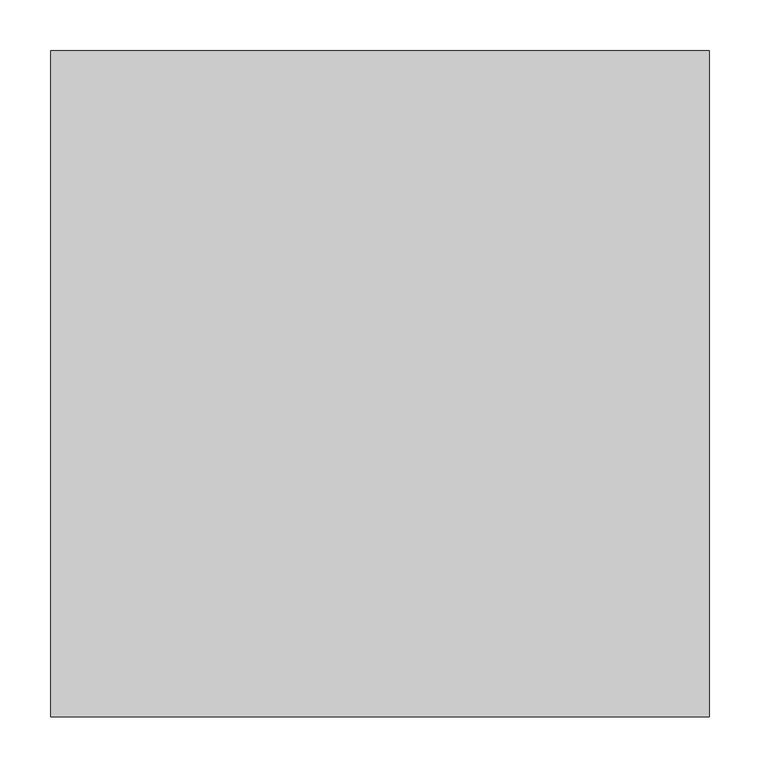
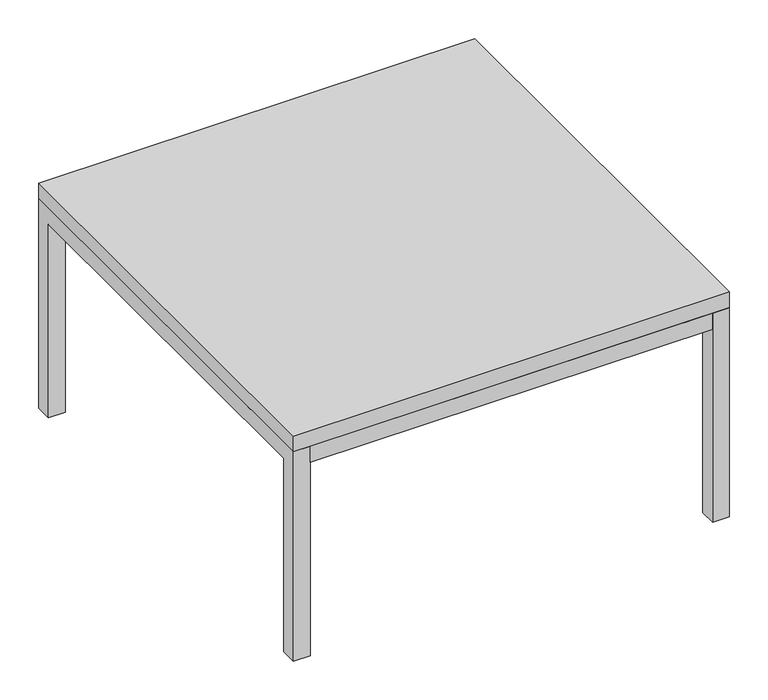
"""IFC4 building model written with IfcOpenShell, lengths in millimetres: furniture geometry, Mesa Modular - COLAB - SM 04 : Mesa Modular - COLAB - SM 04."""

import ifcopenshell
import ifcopenshell.guid

model = None  # the IFC model being written
_history = None  # IfcOwnerHistory: only IFC2X3 demands one
_inside = {}  # id of a spatial element -> (the spatial element, [elements in it])
_under = {}  # id of a project, library or spatial element -> (it, [spatial elements below it])
_declared = {}  # id of a project -> (the project, [libraries it declares])
_typed = {}  # id of a type object -> (the type object, [elements of that type])
_made_of = {}  # id of a material, layer set ... -> (it, [elements and type objects made of it])


def new_model(schema):
    """Start an empty IFC model of exactly this schema.

    Asked for "IFC4X3", IfcOpenShell would pick the latest addendum, in which some entities
    have other attributes; the version numbers below select the first issue.
    IFC2X3 requires an IfcOwnerHistory on every rooted entity: one is made here for all.
    """
    global model, _history
    if schema == "IFC4X3":
        model = ifcopenshell.file(schema_version=(4, 3, 0, 0))
    else:
        model = ifcopenshell.file(schema=schema)
    _inside.clear()
    _under.clear()
    _declared.clear()
    _typed.clear()
    _made_of.clear()
    _history = None
    if model.schema == "IFC2X3":
        org = make("IfcOrganization", Name="unknown")
        user = make(
            "IfcPersonAndOrganization",
            ThePerson=make("IfcPerson", FamilyName="unknown"),
            TheOrganization=org,
        )
        app = make(
            "IfcApplication",
            ApplicationDeveloper=org,
            Version="unknown",
            ApplicationFullName="unknown",
            ApplicationIdentifier="unknown",
        )
        _history = make(
            "IfcOwnerHistory",
            OwningUser=user,
            OwningApplication=app,
            ChangeAction="ADDED",
            CreationDate=0,
        )
    return model


def make(cls, **values):
    """One entity of the class cls with the attributes given. An attribute that is None is left unset."""
    return model.create_entity(
        cls, **{name: value for name, value in values.items() if value is not None}
    )


def rooted(cls, **values):
    """An entity with a GlobalId (a new one), such as an element, a storey or a relation."""
    return make(cls, GlobalId=ifcopenshell.guid.new(), OwnerHistory=_history, **values)


def si_unit(unit_type, name, prefix=None):
    """IfcSIUnit, for example si_unit("LENGTHUNIT", "METRE", prefix="MILLI")."""
    return make("IfcSIUnit", UnitType=unit_type, Prefix=prefix, Name=name)


def assignment(units):
    """IfcUnitAssignment: the units of a project."""
    return None if units is None else make("IfcUnitAssignment", Units=units)


def point(xyz):
    """IfcCartesianPoint."""
    return None if xyz is None else make("IfcCartesianPoint", Coordinates=xyz)


def direction(xyz):
    """IfcDirection."""
    return None if xyz is None else make("IfcDirection", DirectionRatios=xyz)


def frame(location, z_axis=None, x_axis=None):
    """IfcAxis2Placement3D, a coordinate frame: its origin and axes. An axis left out is left unset."""
    return make(
        "IfcAxis2Placement3D",
        Location=point(location),
        Axis=direction(z_axis),
        RefDirection=direction(x_axis),
    )


def origin():
    """The frame at (0, 0, 0) with its axes left unset."""
    return frame((0.0, 0.0, 0.0))


def place(relative_to, where):
    """IfcLocalPlacement: puts the frame where relative to a parent placement (None: the world)."""
    return make(
        "IfcLocalPlacement", PlacementRelTo=relative_to, RelativePlacement=where
    )


def context(
    kind, dimensions, precision=None, world=None, true_north=None, identifier=None
):
    """IfcGeometricRepresentationContext, for example the 3D "Model" context."""
    return make(
        "IfcGeometricRepresentationContext",
        ContextIdentifier=identifier,
        ContextType=kind,
        CoordinateSpaceDimension=dimensions,
        Precision=precision,
        WorldCoordinateSystem=world,
        TrueNorth=true_north,
    )


def project(units=None, contexts=None):
    """IfcProject with its units and contexts."""
    return rooted(
        "IfcProject",
        Name="project",
        RepresentationContexts=contexts,
        UnitsInContext=assignment(units),
    )


def spatial(cls, under=None, at=None, **own):
    """A site, building, storey or space (cls), placed at a placement, below another one or the project."""
    s = rooted(cls, ObjectPlacement=at, **own)
    if under is not None:
        _under.setdefault(under.id(), (under, []))[1].append(s)
    return s


def polyline(points):
    """IfcPolyline through the points."""
    return make("IfcPolyline", Points=[point(p) for p in points])


def outline(outer, holes=None, kind="AREA"):
    """IfcArbitraryClosedProfileDef: a profile drawn as a closed curve; with holes, ...WithVoids."""
    if holes is None:
        return make("IfcArbitraryClosedProfileDef", ProfileType=kind, OuterCurve=outer)
    return make(
        "IfcArbitraryProfileDefWithVoids",
        ProfileType=kind,
        OuterCurve=outer,
        InnerCurves=holes,
    )


def extrude(swept, where, along, depth):
    """IfcExtrudedAreaSolid: the profile swept, set in the frame where, extruded along a direction by depth."""
    return make(
        "IfcExtrudedAreaSolid",
        SweptArea=swept,
        Position=where,
        ExtrudedDirection=direction(along),
        Depth=depth,
    )


def shape(context_of_items, identifier, shape_type, items):
    """IfcShapeRepresentation: the items that make up one representation, for example the "Body"."""
    return make(
        "IfcShapeRepresentation",
        ContextOfItems=context_of_items,
        RepresentationIdentifier=identifier,
        RepresentationType=shape_type,
        Items=items,
    )


def source(mapping_origin, context_of_items, identifier, shape_type, items):
    """IfcRepresentationMap: a shape defined once, which mapped items show again and again."""
    return make(
        "IfcRepresentationMap",
        MappingOrigin=mapping_origin,
        MappedRepresentation=shape(context_of_items, identifier, shape_type, items),
    )


def transform(
    local_origin,
    x_axis=None,
    y_axis=None,
    z_axis=None,
    scale=None,
    scale2=None,
    scale3=None,
    uniform=True,
):
    """IfcCartesianTransformationOperator3D, or its non-uniform kind. x_axis, y_axis, z_axis: its Axis1, 2, 3."""
    if uniform:
        return make(
            "IfcCartesianTransformationOperator3D",
            Axis1=direction(x_axis),
            Axis2=direction(y_axis),
            LocalOrigin=point(local_origin),
            Scale=scale,
            Axis3=direction(z_axis),
        )
    return make(
        "IfcCartesianTransformationOperator3DnonUniform",
        Axis1=direction(x_axis),
        Axis2=direction(y_axis),
        LocalOrigin=point(local_origin),
        Scale=scale,
        Axis3=direction(z_axis),
        Scale2=scale2,
        Scale3=scale3,
    )


def mapped(mapping_source, mapping_target):
    """IfcMappedItem: shows the shape of a source again, moved by a transform."""
    return make(
        "IfcMappedItem", MappingSource=mapping_source, MappingTarget=mapping_target
    )


def made_of(thing, what):
    """Note that an element or type object is made of a material, layer set ...; save() writes the relation."""
    if what is not None:
        _made_of.setdefault(what.id(), (what, []))[1].append(thing)
    return thing


def element(
    cls,
    number,
    at=None,
    inside=None,
    cuts=None,
    type_object=None,
    material=None,
    context=None,
    identifier="Body",
    shape_type=None,
    held_by="IfcProductDefinitionShape",
    body=None,
    shapes=None,
    **own,
):
    """One element of the class cls, such as IfcWall. Its Tag is "e" and its number.

    at: its placement. inside: the storey or other place that contains it. cuts: it is an
    opening in that element (IfcRelVoidsElement). A single representation is given by context,
    identifier, shape_type and body (its items); several are given by shapes. held_by: the class
    of the entity that holds the representations. save() writes the other relations.
    """
    e = rooted(cls, Tag="e%d" % number, ObjectPlacement=at, **own)
    if body is not None:
        shapes = [shape(context, identifier, shape_type, body)]
    if shapes is not None:
        e.Representation = make(held_by, Representations=shapes)
    if inside is not None:
        _inside.setdefault(inside.id(), (inside, []))[1].append(e)
    if cuts is not None:
        rooted(
            "IfcRelVoidsElement", RelatingBuildingElement=cuts, RelatedOpeningElement=e
        )
    if type_object is not None:
        _typed.setdefault(type_object.id(), (type_object, []))[1].append(e)
    return made_of(e, material)


def aggregate(whole, parts):
    """IfcRelAggregates: a whole, such as a stair, and the parts it consists of."""
    return rooted("IfcRelAggregates", RelatingObject=whole, RelatedObjects=parts)


def save(model, path):
    """Write the relations noted so far, then the file.

    IfcRelAggregates (storeys below a building ...), IfcRelContainedInSpatialStructure (elements
    in a storey), IfcRelDefinesByType, IfcRelAssociatesMaterial and IfcRelDeclares: one each for
    every whole, place, type object, material and project.
    """
    for whole, parts in _under.values():
        aggregate(whole, parts)
    for where, things in _inside.values():
        rooted(
            "IfcRelContainedInSpatialStructure",
            RelatedElements=things,
            RelatingStructure=where,
        )
    for kind, things in _typed.values():
        rooted("IfcRelDefinesByType", RelatedObjects=things, RelatingType=kind)
    for what, things in _made_of.values():
        rooted("IfcRelAssociatesMaterial", RelatedObjects=things, RelatingMaterial=what)
    for by, libraries in _declared.values():
        rooted("IfcRelDeclares", RelatingContext=by, RelatedDefinitions=libraries)
    model.write(path)


def furniture_f87f3754(model_context):
    return source(origin(), model_context, "Body", "SweptSolid", [
        extrude(outline(polyline([(574.737005, 583.029965), (574.737005, 633.0299654), (625.0000048, 633.0299654), (625.0000048, 583.029965), (574.737005, 583.029965)])), frame((0.0, 0.0, 324.9999997), z_axis=(0.0, 0.0, 1.0), x_axis=(1.0, 0.0, 0.0)), (0.0, 0.0, 1.0), 4.9999883),
        extrude(outline(polyline([(574.737005, 75.0000004), (625.0000048, 75.0000004), (625.0000048, 25.0), (574.737005, 25.0), (574.737005, 75.0000004)])), frame((0.0, 0.0, 324.9999997), z_axis=(0.0, 0.0, 1.0), x_axis=(1.0, 0.0, 0.0)), (0.0, 0.0, 1.0), 4.9999883),
        extrude(outline(polyline([(75.263, 583.029965), (25.0000002, 583.029965), (25.0000002, 633.0299654), (75.263, 633.0299654), (75.263, 583.029965)])), frame((0.0, 0.0, 324.9999997), z_axis=(0.0, 0.0, 1.0), x_axis=(1.0, 0.0, 0.0)), (0.0, 0.0, 1.0), 4.9999883),
        extrude(outline(polyline([(75.263, 75.0000004), (75.263, 25.0), (25.0000002, 25.0), (25.0000002, 75.0000004), (75.263, 75.0000004)])), frame((0.0, 0.0, 324.9999997), z_axis=(0.0, 0.0, 1.0), x_axis=(1.0, 0.0, 0.0)), (0.0, 0.0, 1.0), 4.9999883),
        extrude(outline(polyline([(312.5000025, 25.0), (312.5000025, 633.0299654), (337.5000025, 633.0299654), (337.5000025, 25.0), (312.5000025, 25.0)])), frame((0.0, 0.0, 304.9999878), z_axis=(0.0, 0.0, 1.0), x_axis=(1.0, 0.0, 0.0)), (0.0, 0.0, 1.0), 25.0000002),
        extrude(outline(polyline([(625.0000048, 0.0), (25.0000002, 0.0), (25.0000002, 25.0), (625.0000048, 25.0), (625.0000048, 0.0)])), frame((0.0, 0.0, 304.9999878), z_axis=(0.0, 0.0, 1.0), x_axis=(1.0, 0.0, 0.0)), (0.0, 0.0, 1.0), 25.0000002),
        extrude(outline(polyline([(25.0, 0.0), (0.0, 0.0), (0.0, 329.999988), (658.0299654, 329.999988), (658.0299654, 0.0), (633.0299654, 0.0), (633.0299654, 304.9999878), (25.0, 304.9999878), (25.0, 0.0)])), frame((625.0000048, 0.0, 0.0), z_axis=(1.0, 0.0, 0.0), x_axis=(0.0, 1.0, 0.0)), (0.0, 0.0, 1.0), 25.0000002),
        extrude(outline(polyline([(25.0000002, 658.0299654), (625.0000048, 658.0299654), (625.0000048, 633.0299654), (25.0000002, 633.0299654), (25.0000002, 658.0299654)])), frame((0.0, 0.0, 304.9999878), z_axis=(0.0, 0.0, 1.0), x_axis=(1.0, 0.0, 0.0)), (0.0, 0.0, 1.0), 25.0000002),
        extrude(outline(polyline([(25.0, 0.0), (0.0, 0.0), (0.0, 329.999988), (658.0299654, 329.999988), (658.0299654, 0.0), (633.0299654, 0.0), (633.0299654, 304.9999878), (25.0, 304.9999878), (25.0, 0.0)])), frame((0.0, 0.0, 0.0), z_axis=(1.0, 0.0, 0.0), x_axis=(0.0, 1.0, 0.0)), (0.0, 0.0, 1.0), 25.0000002),
        extrude(outline(polyline([(650.000005, 0.0), (0.0, 0.0), (0.0, 658.0299654), (650.000005, 658.0299654), (650.000005, 0.0)])), frame((0.0, 0.0, 329.999988), z_axis=(0.0, 0.0, 1.0), x_axis=(1.0, 0.0, 0.0)), (0.0, 0.0, 1.0), 25.0000002),
    ])


if __name__ == "__main__":
    model = new_model("IFC4")
    model_context = context("Model", 3, world=origin())
    ifc_project = project(units=[si_unit("LENGTHUNIT", "METRE", prefix="MILLI")], contexts=[model_context])
    site = spatial("IfcSite", under=ifc_project)
    building = spatial("IfcBuilding", under=site)
    placement = place(None, origin())
    furniture_shape = furniture_f87f3754(model_context)
    element("IfcFurniture", 1, ObjectType="Mesa Modular - COLAB - SM 04 : Mesa Modular - COLAB - SM 04", at=placement, inside=building, context=model_context, shape_type="MappedRepresentation", body=[
        mapped(furniture_shape, transform((0.0, 0.0, 0.0), x_axis=(1.0, 0.0, 0.0), y_axis=(0.0, 1.0, 0.0), z_axis=(0.0, 0.0, 1.0))),
    ])
    save(model, "model.ifc")
